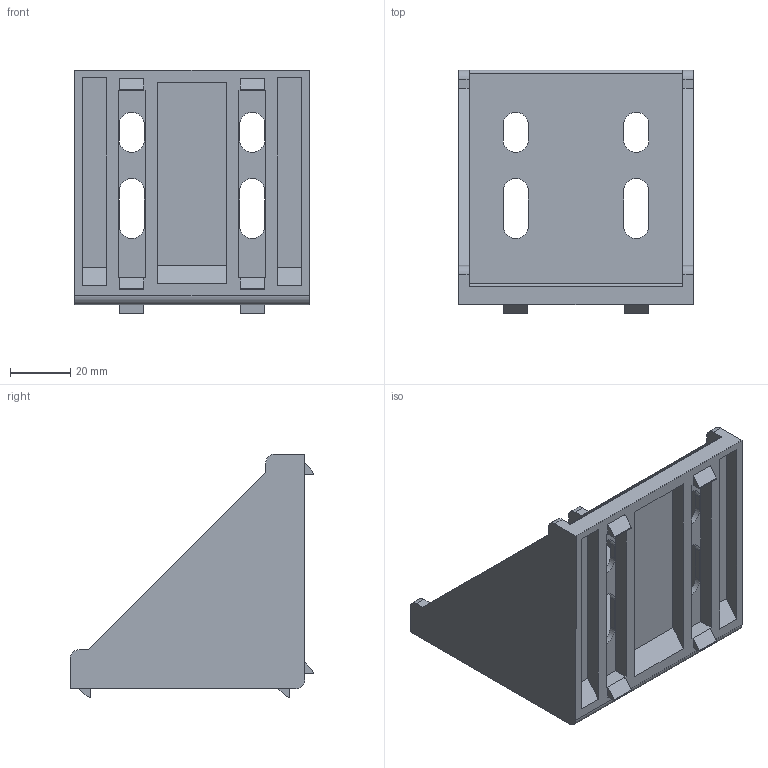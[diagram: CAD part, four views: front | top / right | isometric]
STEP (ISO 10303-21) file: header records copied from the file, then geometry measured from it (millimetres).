
FILE_DESCRIPTION (( 'STEP AP203' ), '1' );
FILE_NAME ('LIMA-GE80X80.STEP', '2018-03-15T12:46:42', ( '' ), ( '' ), 'SwSTEP 2.0', 'SolidWorks 2013', '' );
FILE_SCHEMA (( 'CONFIG_CONTROL_DESIGN' ));
Length unit declared in the file: millimetre
Products named in the file (1): LIMA-GE80X80
Bounding box: 78 x 81 x 81 mm (x, y, z)
Volume: 61250.3 mm3; surface area: 42467.5 mm2
Topology: 1 solids, 1 shells, 145 faces, 391 edges, 258 vertices
Faces by surface type: plane 118, cylinder 27
Entity records: 4604 total; most frequent: CARTESIAN_POINT 795, ORIENTED_EDGE 782, DIRECTION 737, EDGE_CURVE 391, LINE 337, VECTOR 337, VERTEX_POINT 258, AXIS2_PLACEMENT_3D 200
